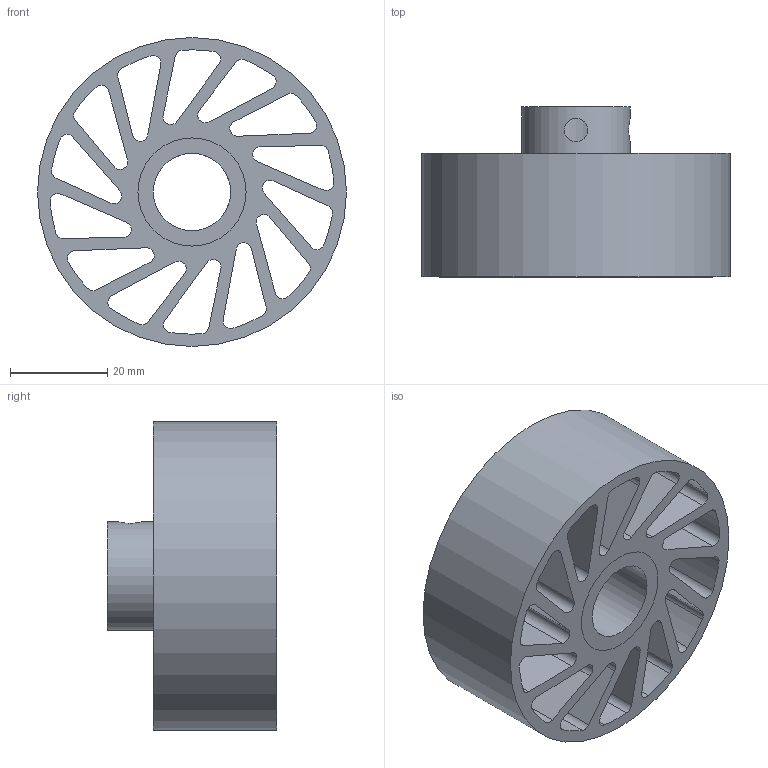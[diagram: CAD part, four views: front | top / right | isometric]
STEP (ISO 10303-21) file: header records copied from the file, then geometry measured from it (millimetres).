
FILE_DESCRIPTION(/* description */ (''),/* implementation_level */ '2;1');
FILE_NAME(/* name */ 'NCW-330-XXX-YYY.stp',/* time_stamp */ '2023-02-01T16:59:55-06:00',/* author */ ('AG'),/* organization */ ('Meridian Laboratory'),/* preprocessor_version */ 'ST-DEVELOPER v18.1',/* originating_system */ 'Autodesk Inventor 2022',/* authorisation */ '');
FILE_SCHEMA (('AUTOMOTIVE_DESIGN { 1 0 10303 214 3 1 1 }'));
Length unit declared in the file: inch
Products named in the file (1): NCW-300
Bounding box: 63.5 x 34.92 x 63.5 mm (x, y, z)
Volume: 41747.9 mm3; surface area: 29577.4 mm2
Topology: 2 solids, 2 shells, 94 faces, 276 edges, 186 vertices
Faces by surface type: cylinder 62, plane 32
Full cylindrical faces by diameter (mm): 4.826 x2, 15.9 x1, 22.225 x2, 63.5 x1
Entity records: 3538 total; most frequent: CARTESIAN_POINT 697, DIRECTION 576, ORIENTED_EDGE 552, EDGE_CURVE 276, AXIS2_PLACEMENT_3D 215, VERTEX_POINT 186, LINE 146, VECTOR 146
